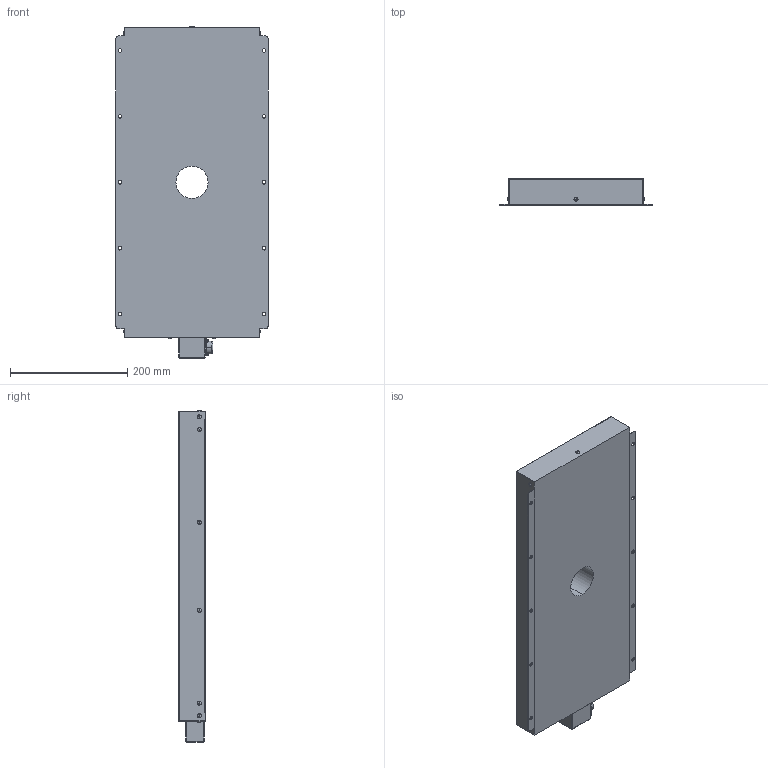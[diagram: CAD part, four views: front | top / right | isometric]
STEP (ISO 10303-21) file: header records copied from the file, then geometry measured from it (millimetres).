
FILE_DESCRIPTION (( 'STEP AP214' ), '1' );
FILE_NAME ('HDSBPA-500x200_-24-55D.STEP', '2023-06-01T07:41:21', ( '' ), ( '' ), 'SwSTEP 2.0', 'SolidWorks 2022', '' );
FILE_SCHEMA (( 'AUTOMOTIVE_DESIGN' ));
Length unit declared in the file: millimetre
Products named in the file (1): HDSBPA-500x200_-24-55D
Bounding box: 260 x 45 x 566.9 mm (x, y, z)
Volume: 5350714.1 mm3; surface area: 352734 mm2
Topology: 1 solids, 1 shells, 192 faces, 520 edges, 303 vertices
Faces by surface type: cylinder 96, sphere 54, plane 32, torus 8, cone 2
Entity records: 5608 total; most frequent: DIRECTION 1100, CARTESIAN_POINT 916, ORIENTED_EDGE 886, AXIS2_PLACEMENT_3D 464, EDGE_CURVE 443, VERTEX_POINT 280, CIRCLE 271, EDGE_LOOP 241
